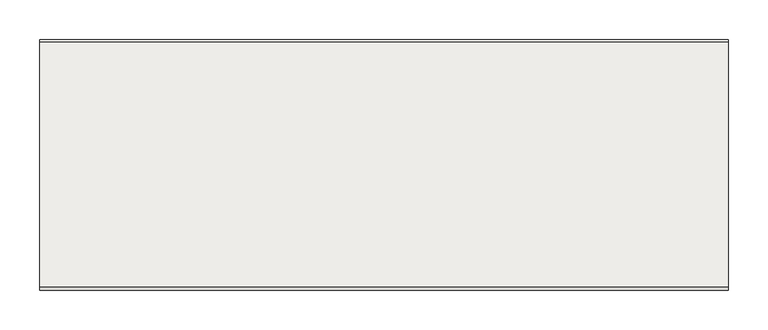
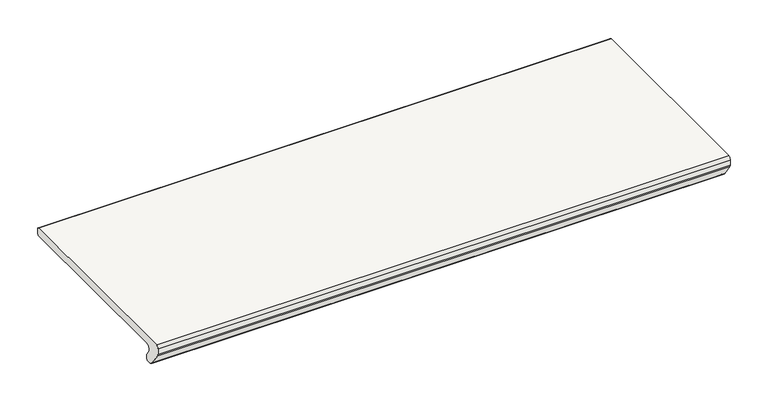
"""IFC4 building model written with IfcOpenShell, lengths in millimetres: slab geometry, ROSA GRES_J62 : Pieza J62_Tresor_Java_Anti-Slip."""

import ifcopenshell
import ifcopenshell.guid

model = None  # the IFC model being written
_history = None  # IfcOwnerHistory: only IFC2X3 demands one
_inside = {}  # id of a spatial element -> (the spatial element, [elements in it])
_under = {}  # id of a project, library or spatial element -> (it, [spatial elements below it])
_declared = {}  # id of a project -> (the project, [libraries it declares])
_typed = {}  # id of a type object -> (the type object, [elements of that type])
_made_of = {}  # id of a material, layer set ... -> (it, [elements and type objects made of it])


def new_model(schema):
    """Start an empty IFC model of exactly this schema.

    Asked for "IFC4X3", IfcOpenShell would pick the latest addendum, in which some entities
    have other attributes; the version numbers below select the first issue.
    IFC2X3 requires an IfcOwnerHistory on every rooted entity: one is made here for all.
    """
    global model, _history
    if schema == "IFC4X3":
        model = ifcopenshell.file(schema_version=(4, 3, 0, 0))
    else:
        model = ifcopenshell.file(schema=schema)
    _inside.clear()
    _under.clear()
    _declared.clear()
    _typed.clear()
    _made_of.clear()
    _history = None
    if model.schema == "IFC2X3":
        org = make("IfcOrganization", Name="unknown")
        user = make(
            "IfcPersonAndOrganization",
            ThePerson=make("IfcPerson", FamilyName="unknown"),
            TheOrganization=org,
        )
        app = make(
            "IfcApplication",
            ApplicationDeveloper=org,
            Version="unknown",
            ApplicationFullName="unknown",
            ApplicationIdentifier="unknown",
        )
        _history = make(
            "IfcOwnerHistory",
            OwningUser=user,
            OwningApplication=app,
            ChangeAction="ADDED",
            CreationDate=0,
        )
    return model


def make(cls, **values):
    """One entity of the class cls with the attributes given. An attribute that is None is left unset."""
    return model.create_entity(
        cls, **{name: value for name, value in values.items() if value is not None}
    )


def rooted(cls, **values):
    """An entity with a GlobalId (a new one), such as an element, a storey or a relation."""
    return make(cls, GlobalId=ifcopenshell.guid.new(), OwnerHistory=_history, **values)


def si_unit(unit_type, name, prefix=None):
    """IfcSIUnit, for example si_unit("LENGTHUNIT", "METRE", prefix="MILLI")."""
    return make("IfcSIUnit", UnitType=unit_type, Prefix=prefix, Name=name)


def assignment(units):
    """IfcUnitAssignment: the units of a project."""
    return None if units is None else make("IfcUnitAssignment", Units=units)


def point(xyz):
    """IfcCartesianPoint."""
    return None if xyz is None else make("IfcCartesianPoint", Coordinates=xyz)


def direction(xyz):
    """IfcDirection."""
    return None if xyz is None else make("IfcDirection", DirectionRatios=xyz)


def frame(location, z_axis=None, x_axis=None):
    """IfcAxis2Placement3D, a coordinate frame: its origin and axes. An axis left out is left unset."""
    return make(
        "IfcAxis2Placement3D",
        Location=point(location),
        Axis=direction(z_axis),
        RefDirection=direction(x_axis),
    )


def origin():
    """The frame at (0, 0, 0) with its axes left unset."""
    return frame((0.0, 0.0, 0.0))


def place(relative_to, where):
    """IfcLocalPlacement: puts the frame where relative to a parent placement (None: the world)."""
    return make(
        "IfcLocalPlacement", PlacementRelTo=relative_to, RelativePlacement=where
    )


def context(
    kind, dimensions, precision=None, world=None, true_north=None, identifier=None
):
    """IfcGeometricRepresentationContext, for example the 3D "Model" context."""
    return make(
        "IfcGeometricRepresentationContext",
        ContextIdentifier=identifier,
        ContextType=kind,
        CoordinateSpaceDimension=dimensions,
        Precision=precision,
        WorldCoordinateSystem=world,
        TrueNorth=true_north,
    )


def project(units=None, contexts=None):
    """IfcProject with its units and contexts."""
    return rooted(
        "IfcProject",
        Name="project",
        RepresentationContexts=contexts,
        UnitsInContext=assignment(units),
    )


def spatial(cls, under=None, at=None, **own):
    """A site, building, storey or space (cls), placed at a placement, below another one or the project."""
    s = rooted(cls, ObjectPlacement=at, **own)
    if under is not None:
        _under.setdefault(under.id(), (under, []))[1].append(s)
    return s


def polyline(points):
    """IfcPolyline through the points."""
    return make("IfcPolyline", Points=[point(p) for p in points])


def circle_curve(where, radius):
    """IfcCircle in the frame where."""
    return make("IfcCircle", Position=where, Radius=radius)


def shape(context_of_items, identifier, shape_type, items):
    """IfcShapeRepresentation: the items that make up one representation, for example the "Body"."""
    return make(
        "IfcShapeRepresentation",
        ContextOfItems=context_of_items,
        RepresentationIdentifier=identifier,
        RepresentationType=shape_type,
        Items=items,
    )


def source(mapping_origin, context_of_items, identifier, shape_type, items):
    """IfcRepresentationMap: a shape defined once, which mapped items show again and again."""
    return make(
        "IfcRepresentationMap",
        MappingOrigin=mapping_origin,
        MappedRepresentation=shape(context_of_items, identifier, shape_type, items),
    )


def transform(
    local_origin,
    x_axis=None,
    y_axis=None,
    z_axis=None,
    scale=None,
    scale2=None,
    scale3=None,
    uniform=True,
):
    """IfcCartesianTransformationOperator3D, or its non-uniform kind. x_axis, y_axis, z_axis: its Axis1, 2, 3."""
    if uniform:
        return make(
            "IfcCartesianTransformationOperator3D",
            Axis1=direction(x_axis),
            Axis2=direction(y_axis),
            LocalOrigin=point(local_origin),
            Scale=scale,
            Axis3=direction(z_axis),
        )
    return make(
        "IfcCartesianTransformationOperator3DnonUniform",
        Axis1=direction(x_axis),
        Axis2=direction(y_axis),
        LocalOrigin=point(local_origin),
        Scale=scale,
        Axis3=direction(z_axis),
        Scale2=scale2,
        Scale3=scale3,
    )


def mapped(mapping_source, mapping_target):
    """IfcMappedItem: shows the shape of a source again, moved by a transform."""
    return make(
        "IfcMappedItem", MappingSource=mapping_source, MappingTarget=mapping_target
    )


def made_of(thing, what):
    """Note that an element or type object is made of a material, layer set ...; save() writes the relation."""
    if what is not None:
        _made_of.setdefault(what.id(), (what, []))[1].append(thing)
    return thing


def element(
    cls,
    number,
    at=None,
    inside=None,
    cuts=None,
    type_object=None,
    material=None,
    context=None,
    identifier="Body",
    shape_type=None,
    held_by="IfcProductDefinitionShape",
    body=None,
    shapes=None,
    **own,
):
    """One element of the class cls, such as IfcWall. Its Tag is "e" and its number.

    at: its placement. inside: the storey or other place that contains it. cuts: it is an
    opening in that element (IfcRelVoidsElement). A single representation is given by context,
    identifier, shape_type and body (its items); several are given by shapes. held_by: the class
    of the entity that holds the representations. save() writes the other relations.
    """
    e = rooted(cls, Tag="e%d" % number, ObjectPlacement=at, **own)
    if body is not None:
        shapes = [shape(context, identifier, shape_type, body)]
    if shapes is not None:
        e.Representation = make(held_by, Representations=shapes)
    if inside is not None:
        _inside.setdefault(inside.id(), (inside, []))[1].append(e)
    if cuts is not None:
        rooted(
            "IfcRelVoidsElement", RelatingBuildingElement=cuts, RelatedOpeningElement=e
        )
    if type_object is not None:
        _typed.setdefault(type_object.id(), (type_object, []))[1].append(e)
    return made_of(e, material)


def aggregate(whole, parts):
    """IfcRelAggregates: a whole, such as a stair, and the parts it consists of."""
    return rooted("IfcRelAggregates", RelatingObject=whole, RelatedObjects=parts)


def save(model, path):
    """Write the relations noted so far, then the file.

    IfcRelAggregates (storeys below a building ...), IfcRelContainedInSpatialStructure (elements
    in a storey), IfcRelDefinesByType, IfcRelAssociatesMaterial and IfcRelDeclares: one each for
    every whole, place, type object, material and project.
    """
    for whole, parts in _under.values():
        aggregate(whole, parts)
    for where, things in _inside.values():
        rooted(
            "IfcRelContainedInSpatialStructure",
            RelatedElements=things,
            RelatingStructure=where,
        )
    for kind, things in _typed.values():
        rooted("IfcRelDefinesByType", RelatedObjects=things, RelatingType=kind)
    for what, things in _made_of.values():
        rooted("IfcRelAssociatesMaterial", RelatedObjects=things, RelatingMaterial=what)
    for by, libraries in _declared.values():
        rooted("IfcRelDeclares", RelatingContext=by, RelatedDefinitions=libraries)
    model.write(path)


def plane_surface(at):
    """IfcPlane: the flat surface through the origin of the frame at, square to its z axis."""
    return make("IfcPlane", Position=at)


def cylinder_surface(at, radius):
    """IfcCylindricalSurface: all points at the distance radius from the z axis of the frame at."""
    return make("IfcCylindricalSurface", Position=at, Radius=radius)


def revolved_surface(curve, axis_point, axis_direction):
    """IfcSurfaceOfRevolution: the curve turned about the line through axis_point along axis_direction."""
    return make(
        "IfcSurfaceOfRevolution",
        SweptCurve=make("IfcArbitraryOpenProfileDef", ProfileType="CURVE", Curve=curve),
        AxisPosition=make("IfcAxis1Placement", Location=point(axis_point), Axis=direction(axis_direction)),
    )


def advanced_brep(points, edges, surfaces, faces):
    """IfcAdvancedBrep: a solid bounded by faces that lie on surfaces and meet in shared edges.

    An edge is (start, end): straight between two places in points (the first is 0);
    or (start, end, curve); or (start, end, curve, False) where it runs against its curve.
    A face is (place in surfaces, loops), or (place, loops, False) where it looks against
    its surface's normal. A loop lists edges by number (the first is 1), with a minus sign
    where the edge is run from its end to its start. The first loop is the outer one.
    """
    corners = [point(p) for p in points]
    vertices = [make("IfcVertexPoint", VertexGeometry=c) for c in corners]
    made = []
    for start, end, *more in edges:
        made.append(
            make(
                "IfcEdgeCurve",
                EdgeStart=vertices[start],
                EdgeEnd=vertices[end],
                EdgeGeometry=more[0] if more else make("IfcPolyline", Points=[corners[start], corners[end]]),
                SameSense=more[1] if len(more) > 1 else True,
            )
        )
    hull = []
    for where, loops, *sense in faces:
        bounds = []
        for j, loop in enumerate(loops):
            ring = [make("IfcOrientedEdge", EdgeElement=made[abs(k) - 1], Orientation=k > 0) for k in loop]
            bounds.append(
                make(
                    "IfcFaceOuterBound" if j == 0 else "IfcFaceBound",
                    Bound=make("IfcEdgeLoop", EdgeList=ring),
                    Orientation=True,
                )
            )
        hull.append(make("IfcAdvancedFace", Bounds=bounds, FaceSurface=surfaces[where], SameSense=sense[0] if sense else True))
    return make("IfcAdvancedBrep", Outer=make("IfcClosedShell", CfsFaces=hull))


def slab_69e8258f(model_context):
    return source(origin(), model_context, "Body", "AdvancedBrep", [
        advanced_brep(
        [(871.6705073, 317.0, 2.5), (871.6705073, 317.0, 10.0774941), (871.6705073, 314.2818333, 12.7946269), (871.6705073, 3.9876034, 12.7946269), (871.6705073, 0.0, 8.2984975), (871.6705073, 0.0, -0.2793766), (871.6705073, 0.7963935, -2.84429), (871.6705073, 14.760096, -23.1626329), (871.6705073, 17.666394, -25.1262743), (871.6705073, 18.5721049, -25.1262743), (871.6705073, 19.473321, -26.1221068), (871.6705073, 20.3835268, -27.1188383), (871.6705073, 26.7240304, -27.1188383), (871.6705073, 29.4411632, -24.4017055), (871.6705073, 29.4411632, -18.2354274), (871.6705073, 24.5931401, -10.7276172), (871.6705073, 29.6363327, 0.0), (871.6705073, 314.5, 0.0), (0.0, 317.0, 2.5), (0.0, 314.5, 0.0), (0.0, 29.6363327, 0.0), (0.0, 24.5931401, -10.7276172), (0.0, 29.4411632, -18.2354274), (0.0, 29.4411632, -24.4017055), (0.0, 26.7240304, -27.1188383), (0.0, 20.3835268, -27.1188383), (0.0, 19.4823107, -26.1230058), (0.0, 18.5721049, -25.1262743), (0.0, 17.666394, -25.1262743), (0.0, 14.760096, -23.1626329), (0.0, 0.7963935, -2.84429), (0.0, 0.0, -0.2793766), (0.0, 0.0, 8.2984975), (0.0, 3.9876034, 12.7946269), (0.0, 314.2818333, 12.7946269), (0.0, 316.9989661, 10.0774941)],
        [
            (0, 1),
            (1, 2, circle_curve(frame((871.6705073, 314.2818333, 10.0774941), z_axis=(1.0, 0.0, 0.0), x_axis=(0.0, 0.0, 1.0)), 2.7171328)),
            (2, 3),
            (3, 4, circle_curve(frame((871.6705073, 4.5285547, 8.2984975), z_axis=(1.0, 0.0, 0.0), x_axis=(0.0, -0.9928398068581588, -0.11945341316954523)), 4.5285547)),
            (4, 5),
            (5, 6, circle_curve(frame((871.6705073, 4.5285547, -0.2793766), z_axis=(1.0, 0.0, 0.0), x_axis=(0.0, 0.0, -1.0)), 4.5285547)),
            (6, 7),
            (7, 8, circle_curve(frame((871.6705073, 18.9818017, -20.0468365), z_axis=(1.0, 0.0, 0.0), x_axis=(0.0, 0.5938246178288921, -0.804594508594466)), 5.2469978)),
            (8, 9),
            (9, 10, circle_curve(frame((871.6705073, 18.5721049, -26.0319852), z_axis=(-1.0, 0.0, 0.0), x_axis=(0.0, 1.0, 0.0)), 0.9057109)),
            (10, 11, circle_curve(frame((871.6705073, 20.3835268, -26.2131274), z_axis=(1.0, 0.0, 0.0), x_axis=(0.0, -0.0995037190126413, -0.9950371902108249)), 0.9057109)),
            (11, 12),
            (12, 13, circle_curve(frame((871.6705073, 26.7240304, -24.4017055), z_axis=(1.0, 0.0, 0.0), x_axis=(0.0, 1.0, 0.0)), 2.7171328)),
            (13, 14),
            (14, 15),
            (15, 16, circle_curve(frame((871.6705073, 30.1604402, -6.7956336), z_axis=(-1.0, 0.0, 0.0), x_axis=(0.0, -0.5768912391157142, 0.8168209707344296)), 6.8158144)),
            (16, 17),
            (17, 0, circle_curve(frame((871.6705073, 314.5, 2.5), z_axis=(1.0, 0.0, 0.0), x_axis=(0.0, 1.0, 0.0)), 2.5)),
            (18, 19, circle_curve(frame((0.0, 314.5, 2.5), z_axis=(-1.0, 0.0, 0.0), x_axis=(0.0, 1.0, 0.0)), 2.5)),
            (19, 20),
            (20, 21, circle_curve(frame((0.0, 30.1604402, -6.7956336), z_axis=(1.0, 0.0, 0.0), x_axis=(0.0, -0.5768912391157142, 0.8168209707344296)), 6.8158144)),
            (21, 22),
            (22, 23),
            (23, 24, circle_curve(frame((0.0, 26.7240304, -24.4017055), z_axis=(-1.0, 0.0, 0.0), x_axis=(0.0, 1.0, 0.0)), 2.7171328)),
            (24, 25),
            (25, 26, circle_curve(frame((0.0, 20.3835268, -26.2131274), z_axis=(-1.0, 0.0, 0.0), x_axis=(0.0, -0.0995037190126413, -0.9950371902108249)), 0.9057109)),
            (26, 27, circle_curve(frame((0.0, 18.5721049, -26.0319852), z_axis=(1.0, 0.0, 0.0), x_axis=(0.0, 1.0, 0.0)), 0.9057109)),
            (27, 28),
            (28, 29, circle_curve(frame((0.0, 18.9818017, -20.0468365), z_axis=(-1.0, 0.0, 0.0), x_axis=(0.0, 0.5938246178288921, -0.804594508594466)), 5.2469978)),
            (29, 30),
            (30, 31, circle_curve(frame((0.0, 4.5285547, -0.2793766), z_axis=(-1.0, 0.0, 0.0), x_axis=(0.0, 0.0, -1.0)), 4.5285547)),
            (31, 32),
            (32, 33, circle_curve(frame((0.0, 4.5285547, 8.2984975), z_axis=(-1.0, 0.0, 0.0), x_axis=(0.0, -0.9928398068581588, -0.11945341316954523)), 4.5285547)),
            (33, 34),
            (34, 35, circle_curve(frame((0.0, 314.2818333, 10.0774941), z_axis=(-1.0, 0.0, 0.0), x_axis=(0.0, 0.0, 1.0)), 2.7171328)),
            (35, 18),
            (16, 20),
            (19, 17),
            (18, 0),
            (35, 1),
            (34, 2),
            (33, 3),
            (32, 4),
            (31, 5),
            (30, 6),
            (29, 7),
            (28, 8),
            (27, 9),
            (26, 10),
            (25, 11),
            (24, 12),
            (23, 13),
            (22, 14),
            (21, 15),
        ],
        [
            plane_surface(frame((871.6705073, 317.0, 10.0774941), z_axis=(1.0, 0.0, 0.0), x_axis=(0.0, 0.0, 1.0))),
            plane_surface(frame((0.0, 317.0, 10.0774941), z_axis=(-1.0, 0.0, 0.0), x_axis=(0.0, 0.0, -1.0))),
            plane_surface(frame((871.6705073, 172.0681664, 0.0), z_axis=(0.0, 0.0, -1.0), x_axis=(0.0, 1.0, 0.0))),
            cylinder_surface(frame((871.6705073, 314.5, 2.5), z_axis=(-1.0, 0.0, 0.0), x_axis=(0.0, 1.0, 0.0)), 2.5),
            plane_surface(frame((871.6705073, 317.0, 6.288747), z_axis=(0.0, 1.0, 0.0), x_axis=(0.0, 0.0, 1.0))),
            cylinder_surface(frame((871.6705073, 314.2818333, 10.0774941), z_axis=(-1.0, 0.0, 0.0), x_axis=(0.0, 0.0, 1.0)), 2.7171328),
            plane_surface(frame((871.6705073, 159.1347183, 12.7946269), z_axis=(0.0, 0.0, 1.0), x_axis=(0.0, -1.0, 0.0))),
            cylinder_surface(frame((871.6705073, 4.5285547, 8.2984975), z_axis=(-1.0, 0.0, 0.0), x_axis=(0.0, -0.9928398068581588, -0.11945341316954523)), 4.5285547),
            plane_surface(frame((871.6705073, 0.0, 4.0095604), z_axis=(0.0, -1.0, 0.0), x_axis=(0.0, 0.0, -1.0))),
            cylinder_surface(frame((871.6705073, 4.5285547, -0.2793766), z_axis=(-1.0, 0.0, 0.0), x_axis=(0.0, 0.0, -1.0)), 4.5285547),
            plane_surface(frame((871.6705073, 7.7782448, -13.0034614), z_axis=(0.0, -0.8241395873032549, -0.5663867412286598), x_axis=(0.0, 0.5663867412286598, -0.8241395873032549))),
            cylinder_surface(frame((871.6705073, 18.9818017, -20.0468365), z_axis=(-1.0, 0.0, 0.0), x_axis=(0.0, 0.5938246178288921, -0.804594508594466)), 5.2469978),
            plane_surface(frame((871.6705073, 18.1192494, -25.1262743), z_axis=(0.0, -1.2857360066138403e-11, -1.0), x_axis=(0.0, 1.0, -1.2857360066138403e-11))),
            revolved_surface(polyline([(0.0, 19.4778158, -26.0319852), (871.6705073, 19.4778158, -26.0319852)]), (871.6705073, 18.5721049, -26.0319852), (-1.0, 0.0, 0.0)),
            cylinder_surface(frame((871.6705073, 20.3835268, -26.2131274), z_axis=(-1.0, 0.0, 0.0), x_axis=(0.0, -0.0995037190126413, -0.9950371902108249)), 0.9057109),
            plane_surface(frame((871.6705073, 23.5537786, -27.1188383), z_axis=(0.0, -2.3443000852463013e-12, -1.0), x_axis=(0.0, 1.0, -2.3443000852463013e-12))),
            cylinder_surface(frame((871.6705073, 26.7240304, -24.4017055), z_axis=(-1.0, 0.0, 0.0), x_axis=(0.0, 1.0, 0.0)), 2.7171328),
            plane_surface(frame((871.6705073, 29.4411632, -21.3185665), z_axis=(0.0, 1.0, 0.0), x_axis=(0.0, 0.0, 1.0))),
            plane_surface(frame((871.6705073, 27.0171517, -14.4815223), z_axis=(0.0, 0.8400786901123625, 0.5424645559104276), x_axis=(0.0, -0.5424645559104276, 0.8400786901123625))),
            revolved_surface(polyline([(0.0, 26.228456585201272, -1.2283334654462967), (871.6705073, 26.228456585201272, -1.2283334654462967)]), (871.6705073, 30.1604402, -6.7956336), (-1.0, 0.0, 0.0)),
        ],
        [
            (0, [[1, 2, 3, 4, 5, 6, 7, 8, 9, 10, 11, 12, 13, 14, 15, 16, 17, 18]]),
            (1, [[19, 20, 21, 22, 23, 24, 25, 26, 27, 28, 29, 30, 31, 32, 33, 34, 35, 36]]),
            (2, [[-17, 37, -20, 38]]),
            (3, [[-18, -38, -19, 39]]),
            (4, [[-1, -39, -36, 40]]),
            (5, [[-2, -40, -35, 41]]),
            (6, [[-3, -41, -34, 42]]),
            (7, [[-4, -42, -33, 43]]),
            (8, [[-5, -43, -32, 44]]),
            (9, [[-6, -44, -31, 45]]),
            (10, [[-7, -45, -30, 46]]),
            (11, [[-8, -46, -29, 47]]),
            (12, [[-9, -47, -28, 48]]),
            (13, [[-10, -48, -27, 49]]),
            (14, [[-11, -49, -26, 50]]),
            (15, [[-12, -50, -25, 51]]),
            (16, [[-13, -51, -24, 52]]),
            (17, [[-14, -52, -23, 53]]),
            (18, [[-15, -53, -22, 54]]),
            (19, [[-16, -54, -21, -37]]),
        ],
    ),
    ])


if __name__ == "__main__":
    model = new_model("IFC4")
    model_context = context("Model", 3, world=origin())
    ifc_project = project(units=[si_unit("LENGTHUNIT", "METRE", prefix="MILLI")], contexts=[model_context])
    site = spatial("IfcSite", under=ifc_project)
    building = spatial("IfcBuilding", under=site)
    placement = place(None, origin())
    slab_shape = slab_69e8258f(model_context)
    element("IfcSlab", 1, ObjectType="ROSA GRES_J62 : Pieza J62_Tresor_Java_Anti-Slip", at=placement, inside=building, context=model_context, shape_type="MappedRepresentation", body=[
        mapped(slab_shape, transform((0.0, 0.0, 0.0), x_axis=(1.0, 0.0, 0.0), y_axis=(0.0, 1.0, 0.0), z_axis=(0.0, 0.0, 1.0))),
    ])
    save(model, "model.ifc")
